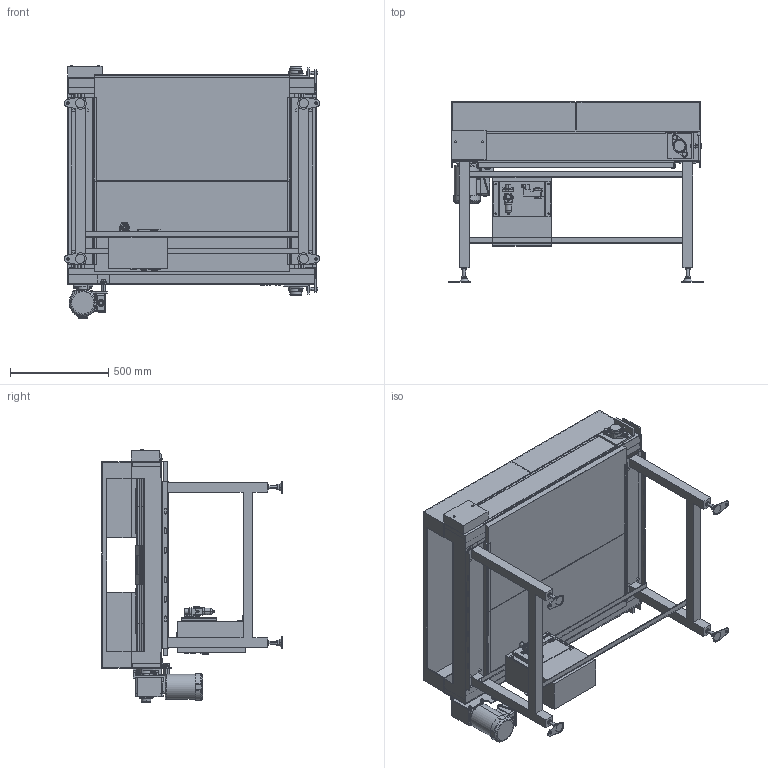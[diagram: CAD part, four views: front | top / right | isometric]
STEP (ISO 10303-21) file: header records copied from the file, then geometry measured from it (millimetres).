
FILE_DESCRIPTION (( 'STEP AP214' ), '1' );
FILE_NAME ('SLS-H-3-200-300-R.STEP', '2023-07-25T05:40:19', ( '' ), ( '' ), 'SwSTEP 2.0', 'SolidWorks 2017', '' );
FILE_SCHEMA (( 'AUTOMOTIVE_DESIGN' ));
Length unit declared in the file: millimetre
Products named in the file (1): SLS-H-3-200-300-R
Bounding box: 1304 x 920.6 x 1289.5 mm (x, y, z)
Volume: 66283733.7 mm3; surface area: 15552475.5 mm2
Topology: 85 solids, 85 shells, 3935 faces, 10792 edges, 6861 vertices
Faces by surface type: plane 2951, cylinder 730, cone 196, bspline 28, torus 22, sphere 8
Entity records: 127574 total; most frequent: CARTESIAN_POINT 25615, ORIENTED_EDGE 21576, DIRECTION 20158, EDGE_CURVE 10788, VECTOR 8674, LINE 8674, VERTEX_POINT 6861, AXIS2_PLACEMENT_3D 5742
